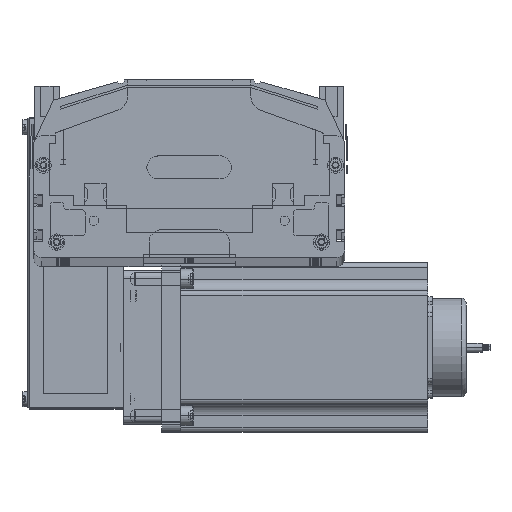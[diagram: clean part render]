
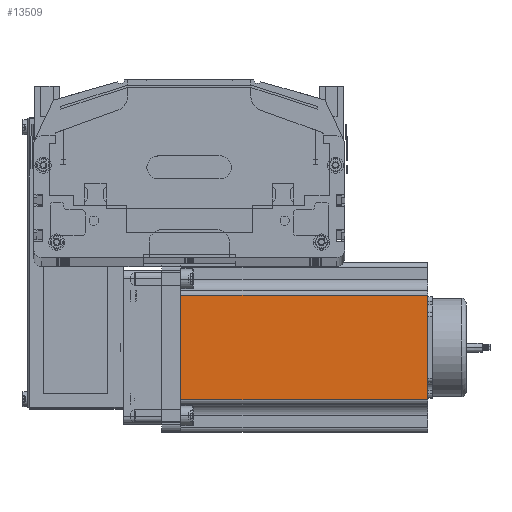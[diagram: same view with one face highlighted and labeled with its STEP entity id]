
A CAD part, top view. The second image highlights one B-rep face of the part: STEP entity #13509.
In plain terms, the highlighted planar face has unit normal (0, 0, 1) as drawn and (0, -1, 0) by its records, which use the part's own axes.
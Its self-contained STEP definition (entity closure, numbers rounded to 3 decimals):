
#10490 = VERTEX_POINT ( 'NONE', #72943 ) ;
#10548 = VERTEX_POINT ( 'NONE', #73263 ) ;
#10800 = ORIENTED_EDGE ( 'NONE', *, *, #11252, .T. ) ;
#11141 = ORIENTED_EDGE ( 'NONE', *, *, #14691, .F. ) ;
#11242 = VERTEX_POINT ( 'NONE', #73633 ) ;
#11252 = EDGE_CURVE ( 'NONE', #11242, #10490, #73610, .T. ) ;
#11299 = EDGE_CURVE ( 'NONE', #10490, #10548, #73775, .T. ) ;
#13291 = EDGE_CURVE ( 'NONE', #10548, #14127, #77304, .T. ) ;
#13328 = ORIENTED_EDGE ( 'NONE', *, *, #11299, .T. ) ;
#13509 = ADVANCED_FACE ( 'NONE', ( #77326 ), #77472, .F. ) ;
#13968 = EDGE_LOOP ( 'NONE', ( #13328, #14582, #11141, #10800 ) ) ;
#14127 = VERTEX_POINT ( 'NONE', #77505 ) ;
#14582 = ORIENTED_EDGE ( 'NONE', *, *, #13291, .T. ) ;
#14691 = EDGE_CURVE ( 'NONE', #11242, #14127, #77634, .T. ) ;
#72943 = CARTESIAN_POINT ( 'NONE',  ( 21.048, 0., 0. ) ) ;
#73263 = CARTESIAN_POINT ( 'NONE',  ( 88.952, 0., 0. ) ) ;
#73607 = DIRECTION ( 'NONE',  ( 0., 0., -1. ) ) ;
#73608 = VECTOR ( 'NONE', #73607, 1000. ) ;
#73609 = CARTESIAN_POINT ( 'NONE',  ( 21.048, 0., 160.5 ) ) ;
#73610 = LINE ( 'NONE', #73609, #73608 ) ;
#73633 = CARTESIAN_POINT ( 'NONE',  ( 21.048, 0., 160.5 ) ) ;
#73766 = DIRECTION ( 'NONE',  ( 1., 0., 0. ) ) ;
#73767 = VECTOR ( 'NONE', #73766, 1000. ) ;
#73768 = CARTESIAN_POINT ( 'NONE',  ( 0., 0., 0. ) ) ;
#73775 = LINE ( 'NONE', #73768, #73767 ) ;
#77304 = LINE ( 'NONE', #77329, #77484 ) ;
#77326 = FACE_OUTER_BOUND ( 'NONE', #13968, .T. ) ;
#77328 = DIRECTION ( 'NONE',  ( 0., 0., 1. ) ) ;
#77329 = CARTESIAN_POINT ( 'NONE',  ( 88.952, 0., 160.5 ) ) ;
#77459 = DIRECTION ( 'NONE',  ( 0., 0., 1. ) ) ;
#77461 = DIRECTION ( 'NONE',  ( 0., 1., 0. ) ) ;
#77464 = CARTESIAN_POINT ( 'NONE',  ( 0., 0., 160.5 ) ) ;
#77472 = PLANE ( 'NONE',  #77482 ) ;
#77482 = AXIS2_PLACEMENT_3D ( 'NONE', #77464, #77461, #77459 ) ;
#77484 = VECTOR ( 'NONE', #77328, 1000. ) ;
#77505 = CARTESIAN_POINT ( 'NONE',  ( 88.952, 0., 160.5 ) ) ;
#77625 = DIRECTION ( 'NONE',  ( 1., 0., 0. ) ) ;
#77627 = VECTOR ( 'NONE', #77625, 1000. ) ;
#77628 = CARTESIAN_POINT ( 'NONE',  ( 0., 0., 160.5 ) ) ;
#77634 = LINE ( 'NONE', #77628, #77627 ) ;
